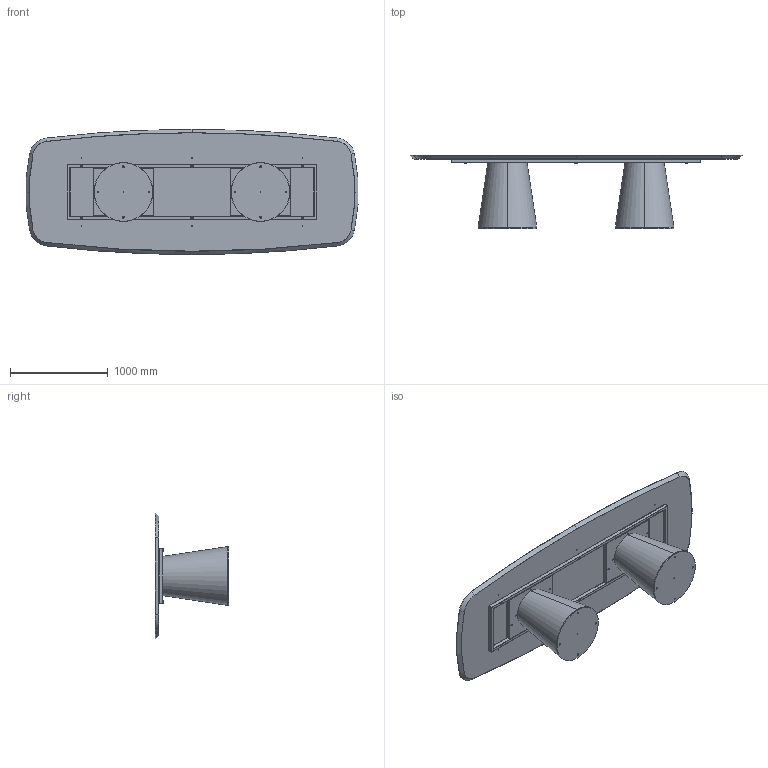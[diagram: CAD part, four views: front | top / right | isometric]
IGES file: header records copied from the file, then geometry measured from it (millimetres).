
Start section: SolidWorks IGES file using analytic representation for surfaces
Global section: file name: Y:\eforma\TECNICO\SOLIDWORKS\E-FORMA\1-TAVOLI\TEO\08 modelli 3D web\TO48W_Teo_340x128_Wood Shaped.IGS; native system: SolidWorks 2022; preprocessor: SolidWorks 2022; author: eforma.tech; date: 240802.114253; units: millimetre
Bounding box: 3390.78 x 751.19 x 1280 mm (x, y, z)
Volume: 208185932.1 mm3; surface area: 17832542.1 mm2
Topology: 28 solids, 28 shells, 1115 faces, 2552 edges, 1465 vertices
Faces by surface type: revolution 629, plane 486
